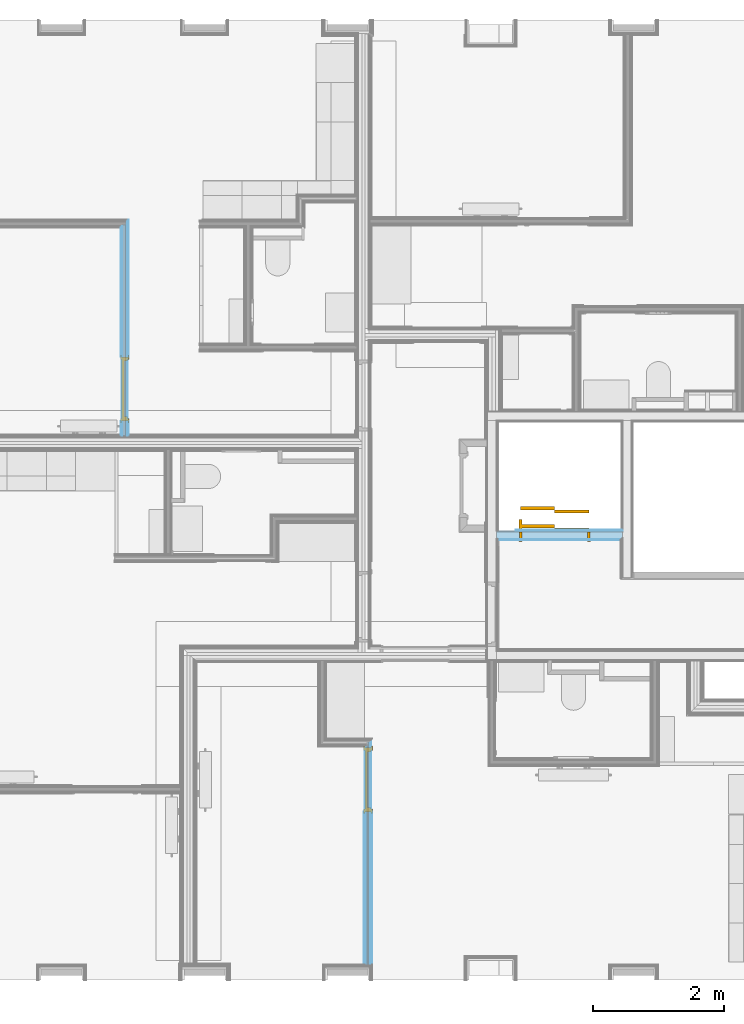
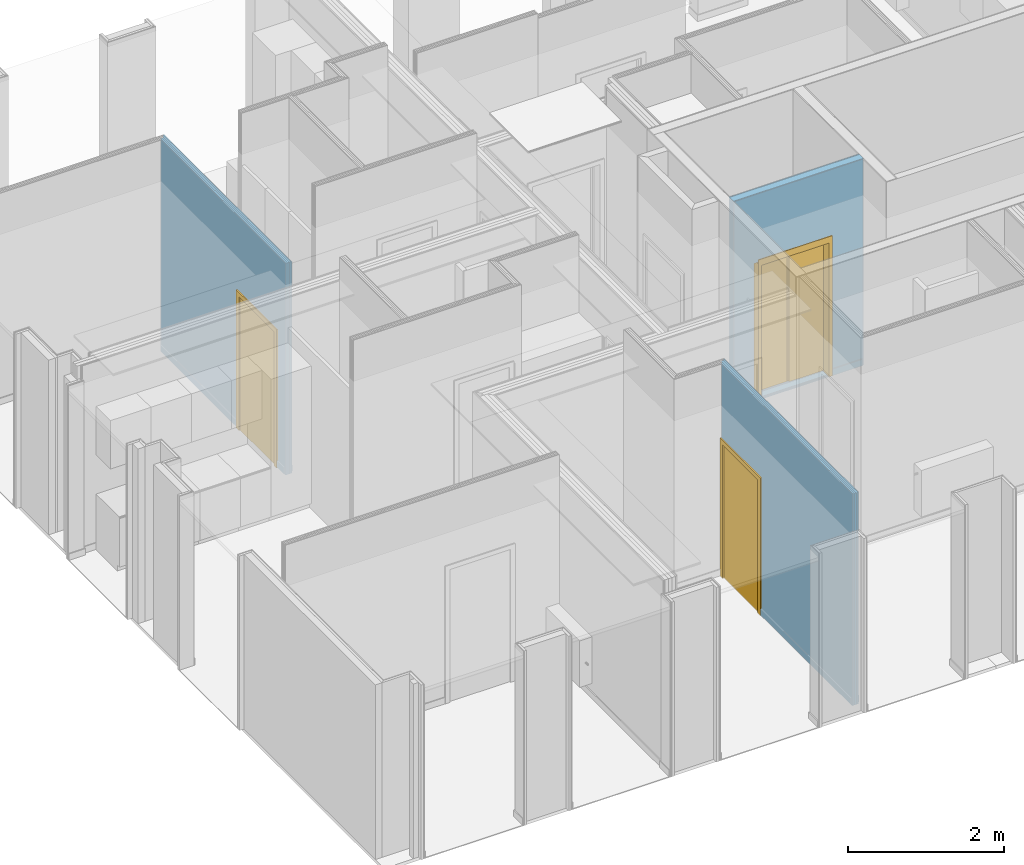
# One storey, part 48 of 64: 3 doors, 4 openings, 3 elements without a shape of their own, plus 19 elements that do not belong to this part.
"""IFC2X3 building model written with IfcOpenShell, lengths in metres."""

from ifc_helpers import new_model, entity, si_unit, converted_unit, derived_unit, money_unit, direction, frame, frame_2d, origin_with_axes, place, context, subcontext, project, spatial, polyline, rectangle, outline, extrude, faceted_brep, material, type_object, element, fill, aggregate, save


model = new_model("IFC2X3")

# Units and contexts
model_context = context("Model", 3, precision=1e-05, world=origin_with_axes(), true_north=direction((0.0, 1.0)))
body_context = subcontext(model_context, "Body", "Model", "MODEL_VIEW", scale=1.0)
ifc_project = project(units=[si_unit("LENGTHUNIT", "METRE"), si_unit("AREAUNIT", "SQUARE_METRE"), si_unit("VOLUMEUNIT", "CUBIC_METRE"), si_unit("ABSORBEDDOSEUNIT", "GRAY"), si_unit("AMOUNTOFSUBSTANCEUNIT", "MOLE"), si_unit("DOSEEQUIVALENTUNIT", "SIEVERT"), si_unit("ELECTRICCAPACITANCEUNIT", "FARAD"), si_unit("ELECTRICCHARGEUNIT", "COULOMB"), si_unit("ELECTRICCONDUCTANCEUNIT", "SIEMENS"), si_unit("ELECTRICCURRENTUNIT", "AMPERE"), si_unit("ELECTRICRESISTANCEUNIT", "OHM"), si_unit("ELECTRICVOLTAGEUNIT", "VOLT"), si_unit("ENERGYUNIT", "JOULE"), si_unit("FORCEUNIT", "NEWTON"), si_unit("FREQUENCYUNIT", "HERTZ"), si_unit("ILLUMINANCEUNIT", "LUX"), si_unit("INDUCTANCEUNIT", "HENRY"), si_unit("LUMINOUSFLUXUNIT", "LUMEN"), si_unit("LUMINOUSINTENSITYUNIT", "CANDELA"), si_unit("MAGNETICFLUXDENSITYUNIT", "TESLA"), si_unit("MAGNETICFLUXUNIT", "WEBER"), si_unit("MASSUNIT", "GRAM"), converted_unit("PLANEANGLEUNIT", "degree", entity("IfcReal", 0.0174532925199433), si_unit("PLANEANGLEUNIT", "RADIAN"), dimensions=[0, 0, 0, 0, 0, 0, 0]), si_unit("POWERUNIT", "WATT"), si_unit("PRESSUREUNIT", "PASCAL"), si_unit("RADIOACTIVITYUNIT", "BECQUEREL"), si_unit("SOLIDANGLEUNIT", "STERADIAN"), si_unit("THERMODYNAMICTEMPERATUREUNIT", "KELVIN"), si_unit("TIMEUNIT", "SECOND"), derived_unit("ACCELERATIONUNIT", [(si_unit("LENGTHUNIT", "METRE"), 1), (si_unit("TIMEUNIT", "SECOND"), -2)]), derived_unit("ANGULARVELOCITYUNIT", [(converted_unit("PLANEANGLEUNIT", "degree", entity("IfcReal", 0.0174532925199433), si_unit("PLANEANGLEUNIT", "RADIAN"), dimensions=[0, 0, 0, 0, 0, 0, 0]), 1), (si_unit("TIMEUNIT", "SECOND"), -1)]), derived_unit("CURVATUREUNIT", [(converted_unit("PLANEANGLEUNIT", "degree", entity("IfcReal", 0.0174532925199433), si_unit("PLANEANGLEUNIT", "RADIAN"), dimensions=[0, 0, 0, 0, 0, 0, 0]), 1), (si_unit("LENGTHUNIT", "METRE"), -1)]), derived_unit("DYNAMICVISCOSITYUNIT", [(si_unit("PRESSUREUNIT", "PASCAL"), 1), (si_unit("TIMEUNIT", "SECOND"), 1)]), derived_unit("HEATFLUXDENSITYUNIT", [(si_unit("POWERUNIT", "WATT"), 1), (si_unit("LENGTHUNIT", "METRE"), -2)]), derived_unit("HEATINGVALUEUNIT", [(si_unit("ENERGYUNIT", "JOULE"), 1), (si_unit("MASSUNIT", "GRAM"), -1)]), derived_unit("INTEGERCOUNTRATEUNIT", [(si_unit("TIMEUNIT", "SECOND"), -1)]), derived_unit("IONCONCENTRATIONUNIT", [(si_unit("MASSUNIT", "GRAM"), 1), (si_unit("VOLUMEUNIT", "CUBIC_METRE"), -1)]), derived_unit("ISOTHERMALMOISTURECAPACITYUNIT", [(si_unit("VOLUMEUNIT", "CUBIC_METRE"), 1), (si_unit("MASSUNIT", "GRAM"), -1)]), derived_unit("KINEMATICVISCOSITYUNIT", [(si_unit("AREAUNIT", "SQUARE_METRE"), 1), (si_unit("TIMEUNIT", "SECOND"), -1)]), derived_unit("LINEARFORCEUNIT", [(si_unit("FORCEUNIT", "NEWTON"), 1), (si_unit("LENGTHUNIT", "METRE"), -1)]), derived_unit("LINEARMOMENTUNIT", [(si_unit("FORCEUNIT", "NEWTON"), 1), (si_unit("LENGTHUNIT", "METRE"), -1)]), derived_unit("LINEARSTIFFNESSUNIT", [(si_unit("FORCEUNIT", "NEWTON"), 1), (si_unit("LENGTHUNIT", "METRE"), -1)]), derived_unit("LINEARVELOCITYUNIT", [(si_unit("LENGTHUNIT", "METRE"), 1), (si_unit("TIMEUNIT", "SECOND"), -1)]), derived_unit("LUMINOUSINTENSITYDISTRIBUTIONUNIT", [(si_unit("LUMINOUSINTENSITYUNIT", "CANDELA"), 1), (si_unit("LUMINOUSFLUXUNIT", "LUMEN"), -1)]), derived_unit("MASSDENSITYUNIT", [(si_unit("MASSUNIT", "GRAM"), 1), (si_unit("VOLUMEUNIT", "CUBIC_METRE"), -1)]), derived_unit("MASSFLOWRATEUNIT", [(si_unit("MASSUNIT", "GRAM"), 1), (si_unit("TIMEUNIT", "SECOND"), -1)]), derived_unit("MASSPERLENGTHUNIT", [(si_unit("MASSUNIT", "GRAM"), 1), (si_unit("LENGTHUNIT", "METRE"), -1)]), derived_unit("MODULUSOFELASTICITYUNIT", [(si_unit("FORCEUNIT", "NEWTON"), 1), (si_unit("AREAUNIT", "SQUARE_METRE"), -1)]), derived_unit("MODULUSOFLINEARSUBGRADEREACTIONUNIT", [(si_unit("FORCEUNIT", "NEWTON"), 1), (si_unit("LENGTHUNIT", "METRE"), -2)]), derived_unit("MODULUSOFROTATIONALSUBGRADEREACTIONUNIT", [(si_unit("FORCEUNIT", "NEWTON"), 1), (si_unit("LENGTHUNIT", "METRE"), 1)]), derived_unit("MODULUSOFSUBGRADEREACTIONUNIT", [(si_unit("FORCEUNIT", "NEWTON"), 1), (si_unit("VOLUMEUNIT", "CUBIC_METRE"), -1)]), derived_unit("MOISTUREDIFFUSIVITYUNIT", [(si_unit("VOLUMEUNIT", "CUBIC_METRE"), 1), (si_unit("TIMEUNIT", "SECOND"), -1)]), derived_unit("MOLECULARWEIGHTUNIT", [(si_unit("MASSUNIT", "GRAM"), 1), (si_unit("AMOUNTOFSUBSTANCEUNIT", "MOLE"), -1)]), derived_unit("PLANARFORCEUNIT", [(si_unit("FORCEUNIT", "NEWTON"), 1), (si_unit("LENGTHUNIT", "METRE"), -2)]), derived_unit("ROTATIONALFREQUENCYUNIT", [(si_unit("TIMEUNIT", "SECOND"), -1)]), derived_unit("ROTATIONALMASSUNIT", [(si_unit("MASSUNIT", "GRAM"), 1), (si_unit("LENGTHUNIT", "METRE"), 2)]), derived_unit("ROTATIONALSTIFFNESSUNIT", [(si_unit("FORCEUNIT", "NEWTON"), 1), (si_unit("LENGTHUNIT", "METRE"), 1), (converted_unit("PLANEANGLEUNIT", "degree", entity("IfcReal", 0.0174532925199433), si_unit("PLANEANGLEUNIT", "RADIAN"), dimensions=[0, 0, 0, 0, 0, 0, 0]), -1)]), derived_unit("SECTIONAREAINTEGRALUNIT", [(si_unit("LENGTHUNIT", "METRE"), 5)]), derived_unit("SECTIONMODULUSUNIT", [(si_unit("LENGTHUNIT", "METRE"), 3)]), derived_unit("SHEARMODULUSUNIT", [(si_unit("FORCEUNIT", "NEWTON"), 1), (si_unit("AREAUNIT", "SQUARE_METRE"), -1)]), derived_unit("SOUNDPOWERUNIT", [(si_unit("ENERGYUNIT", "JOULE"), 1), (si_unit("TIMEUNIT", "SECOND"), -1)]), derived_unit("SPECIFICHEATCAPACITYUNIT", [(si_unit("FORCEUNIT", "NEWTON"), 1), (si_unit("MASSUNIT", "GRAM"), -1), (si_unit("THERMODYNAMICTEMPERATUREUNIT", "KELVIN"), -1)]), derived_unit("TEMPERATUREGRADIENTUNIT", [(si_unit("THERMODYNAMICTEMPERATUREUNIT", "KELVIN"), 1), (si_unit("LENGTHUNIT", "METRE"), -1)]), derived_unit("THERMALADMITTANCEUNIT", [(si_unit("POWERUNIT", "WATT"), 1), (si_unit("AREAUNIT", "SQUARE_METRE"), -1), (si_unit("THERMODYNAMICTEMPERATUREUNIT", "KELVIN"), -1)]), derived_unit("THERMALCONDUCTANCEUNIT", [(si_unit("POWERUNIT", "WATT"), 1), (si_unit("LENGTHUNIT", "METRE"), -1), (si_unit("THERMODYNAMICTEMPERATUREUNIT", "KELVIN"), -1)]), derived_unit("THERMALEXPANSIONCOEFFICIENTUNIT", [(si_unit("THERMODYNAMICTEMPERATUREUNIT", "KELVIN"), -1)]), derived_unit("THERMALRESISTANCEUNIT", [(si_unit("AREAUNIT", "SQUARE_METRE"), 1), (si_unit("POWERUNIT", "WATT"), -1)]), derived_unit("THERMALTRANSMITTANCEUNIT", [(si_unit("POWERUNIT", "WATT"), 1), (si_unit("AREAUNIT", "SQUARE_METRE"), -1), (si_unit("THERMODYNAMICTEMPERATUREUNIT", "KELVIN"), -1)]), derived_unit("TORQUEUNIT", [(si_unit("FORCEUNIT", "NEWTON"), 1), (si_unit("LENGTHUNIT", "METRE"), 1)]), derived_unit("VAPORPERMEABILITYUNIT", [(si_unit("MASSUNIT", "GRAM"), 1), (si_unit("TIMEUNIT", "SECOND"), -1)]), derived_unit("VOLUMETRICFLOWRATEUNIT", [(si_unit("VOLUMEUNIT", "CUBIC_METRE"), 1), (si_unit("TIMEUNIT", "SECOND"), -1)]), derived_unit("WARPINGCONSTANTUNIT", [(si_unit("LENGTHUNIT", "METRE"), 6)]), derived_unit("WARPINGMOMENTUNIT", [(si_unit("FORCEUNIT", "NEWTON"), 1), (si_unit("LENGTHUNIT", "METRE"), 2)]), money_unit("GBP")], contexts=[model_context])

# Site, building, storey, space
site_placement = place(None, origin_with_axes())
site = spatial("IfcSite", under=ifc_project, at=site_placement, Name="Site", CompositionType="ELEMENT")
building_placement = place(site_placement, origin_with_axes())
building = spatial("IfcBuilding", under=site, at=building_placement, Name="Building01", CompositionType="ELEMENT")
storey_placement = place(building_placement, frame((0.0, 0.0, 8.64), z_axis=(0.0, 0.0, 1.0), x_axis=(1.0, 0.0, 0.0)))
storey = spatial("IfcBuildingStorey", under=building, at=storey_placement, Name="2F", CompositionType="ELEMENT", Elevation=8.64)
space_1_placement = place(storey_placement, frame((7.064669, 14.582, 0.017975), z_axis=(0.0, 0.0, 1.0), x_axis=(-1.0, 0.0, 0.0)))
space_1 = spatial("IfcSpace", under=storey, at=space_1_placement, Name="14", CompositionType="ELEMENT", InteriorOrExteriorSpace="NOTDEFINED")

# Door
ifc_material_1 = material(Name="A_BSUK_Doors")
door_style_1 = type_object("IfcDoorStyle", Name="A-Doors-SingleFlush", ConstructionType="USERDEFINED", OperationType="SINGLE_SWING_LEFT", ParameterTakesPrecedence=False, Sizeable=False)
wall_3_placement = place(storey_placement, frame((3.534669, 8.43567, 0.0), z_axis=(0.0, 0.0, 1.0), x_axis=(0.0, 1.0, 0.0)))
opening_4_placement = place(wall_3_placement, frame((0.223034, -0.05, 0.0), z_axis=(0.0, 0.0, 1.0), x_axis=(1.0, 0.0, 0.0)))
door_1_placement = place(opening_4_placement, frame((0.042, 0.11, 0.0), z_axis=(0.0, 0.0, 1.0), x_axis=(1.0, 0.0, 0.0)))
door_1 = element("IfcDoor", 1, at=door_1_placement, inside=space_1, type_object=door_style_1, material=ifc_material_1, Name="2.21", ObjectType="A-Doors-SingleFlush", OverallHeight=2.142, OverallWidth=0.984, context=body_context, shape_type="Brep", body=[
    faceted_brep([(0.0, -0.114, 2.1), (0.9, -0.114, 2.1), (0.9, -0.114, 0.0), (0.969, -0.114, 0.0), (0.969, -0.114, 2.169), (-0.069, -0.114, 2.169), (-0.069, -0.114, 0.0), (0.0, -0.114, 0.0), (0.969, -0.095, 2.169), (0.969, -0.095, 0.0), (-0.069, -0.095, 0.0), (-0.069, -0.095, 2.169), (-0.042, -0.095, 0.0), (-0.042, 0.0, 0.0), (-0.069, 0.0, 0.0), (-0.069, 0.019, 0.0), (0.0, 0.019, 0.0), (0.0, 0.019, 2.1), (0.9, 0.019, 2.1), (-0.069, 0.019, 2.169), (0.969, 0.019, 2.169), (0.969, 0.019, 0.0), (0.9, 0.019, 0.0), (-0.069, 0.0, 2.169), (-0.042, 0.0, 2.142), (-0.042, -0.095, 2.142), (0.942, 0.0, 2.142), (0.942, -0.095, 2.142), (0.942, -0.095, 0.0), (0.942, 0.0, 0.0), (0.969, 0.0, 0.0), (0.969, 0.0, 2.169)], [[[0, 1, 2, 3, 4, 5, 6, 7]], [[8, 4, 3, 9]], [[10, 6, 5, 11]], [[11, 5, 4, 8]], [[7, 6, 10, 12, 13, 14, 15, 16]], [[7, 16, 17, 0]], [[0, 17, 18, 1]], [[17, 16, 15, 19, 20, 21, 22, 18]], [[1, 18, 22, 2]], [[14, 23, 19, 15]], [[24, 13, 12, 25]], [[26, 24, 25, 27]], [[11, 8, 9, 28, 27, 25, 12, 10]], [[27, 28, 29, 26]], [[26, 29, 30, 31, 23, 14, 13, 24]], [[22, 21, 30, 29, 28, 9, 3, 2]], [[30, 21, 20, 31]], [[31, 20, 19, 23]]]),
    faceted_brep([(0.9, -0.09, 0.0), (0.9, -0.04, 0.0), (0.9, -0.04, 2.1), (0.9, -0.09, 2.1), (0.025, -0.09, 2.075), (0.875, -0.09, 2.075), (0.875, -0.09, 0.0), (0.0, -0.09, 2.1), (0.0, -0.09, 0.0), (0.025, -0.09, 0.0), (0.0, -0.04, 0.0), (0.025, -0.04, 0.0), (0.0, -0.04, 2.1), (0.025, -0.04, 2.075), (0.875, -0.04, 0.0), (0.875, -0.04, 2.075)], [[[0, 1, 2, 3]], [[4, 5, 6, 0, 3, 7, 8, 9]], [[9, 8, 10, 11]], [[3, 2, 12, 7]], [[7, 12, 10, 8]], [[13, 11, 10, 12, 2, 1, 14, 15]], [[5, 15, 14, 6]], [[14, 1, 0, 6]], [[9, 11, 13, 4]], [[4, 13, 15, 5]]]),
    faceted_brep([(0.0, -0.04, 2.1), (0.0, 0.0, 2.1), (0.0, 0.0, 0.0), (0.0, -0.04, 0.0), (0.9, -0.04, 0.0), (0.9, 0.0, 0.0), (0.9, 0.0, 2.1), (0.9, -0.04, 2.1)], [[[0, 1, 2, 3]], [[4, 5, 6, 7]], [[3, 2, 5, 4]], [[3, 4, 7, 0]], [[7, 6, 1, 0]], [[1, 6, 5, 2]]]),
])

# Space
space_2_placement = place(storey_placement, frame((12.15, 4.98, 0.017975), z_axis=(0.0, 0.0, 1.0), x_axis=(-1.0, 0.0, 0.0)))
space_2 = spatial("IfcSpace", under=storey, at=space_2_placement, Name="12", CompositionType="ELEMENT", InteriorOrExteriorSpace="NOTDEFINED")

# Door
door_style_2 = type_object("IfcDoorStyle", Name="A-Doors-SingleFlush", ConstructionType="USERDEFINED", OperationType="SINGLE_SWING_RIGHT", ParameterTakesPrecedence=False, Sizeable=False)
wall_2_placement = place(storey_placement, frame((7.26, 3.745, 0.0), z_axis=(0.0, 0.0, 1.0), x_axis=(0.0, -1.0, 0.0)))
opening_2_placement = place(wall_2_placement, frame((0.129, -0.075, -0.015), z_axis=(0.0, 0.0, 1.0), x_axis=(1.0, 0.0, 0.0)))
door_2_placement = place(opening_2_placement, frame((0.9, 0.015, 0.015), z_axis=(0.0, 0.0, 1.0), x_axis=(-1.0, 0.0, 0.0)))
door_2 = element("IfcDoor", 2, at=door_2_placement, inside=space_2, type_object=door_style_2, material=ifc_material_1, Name="2.16", ObjectType="A-Doors-SingleFlush", OverallHeight=2.157, OverallWidth=1.56178056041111, context=body_context, shape_type="Brep", body=[
    faceted_brep([(0.9, -0.114, 0.0), (0.969, -0.114, 0.0), (0.969, -0.114, 2.169), (-0.069, -0.114, 2.169), (-0.069, -0.114, 0.0), (0.0, -0.114, 0.0), (0.0, -0.114, 2.1), (0.9, -0.114, 2.1), (-0.069, -0.095, 0.0), (-0.069, -0.095, 2.169), (0.969, -0.095, 2.169), (0.969, -0.095, 0.0), (0.9, 0.019, 0.0), (0.969, 0.019, 0.0), (0.969, 0.0, 0.0), (0.942, 0.0, 0.0), (0.942, -0.095, 0.0), (0.9, 0.019, 2.1), (0.0, 0.019, 2.1), (0.0, 0.019, 0.0), (-0.069, 0.019, 0.0), (-0.069, 0.019, 2.169), (0.969, 0.019, 2.169), (0.969, 0.0, 2.169), (0.942, -0.095, 2.142), (0.942, 0.0, 2.142), (-0.042, -0.095, 2.142), (-0.042, 0.0, 2.142), (-0.042, -0.095, 0.0), (-0.042, 0.0, 0.0), (-0.069, 0.0, 2.169), (-0.069, 0.0, 0.0)], [[[0, 1, 2, 3, 4, 5, 6, 7]], [[8, 4, 3, 9]], [[10, 2, 1, 11]], [[9, 3, 2, 10]], [[12, 13, 14, 15, 16, 11, 1, 0]], [[7, 17, 12, 0]], [[6, 18, 17, 7]], [[18, 19, 20, 21, 22, 13, 12, 17]], [[5, 19, 18, 6]], [[13, 22, 23, 14]], [[24, 16, 15, 25]], [[26, 24, 25, 27]], [[11, 16, 24, 26, 28, 8, 9, 10]], [[27, 29, 28, 26]], [[25, 15, 14, 23, 30, 31, 29, 27]], [[5, 4, 8, 28, 29, 31, 20, 19]], [[30, 21, 20, 31]], [[23, 22, 21, 30]]]),
    faceted_brep([(0.0, -0.09, 2.1), (0.0, -0.04, 2.1), (0.0, -0.04, 0.0), (0.0, -0.09, 0.0), (0.875, -0.09, 0.0), (0.9, -0.09, 0.0), (0.9, -0.09, 2.1), (0.025, -0.09, 0.0), (0.025, -0.09, 2.075), (0.875, -0.09, 2.075), (0.875, -0.04, 0.0), (0.9, -0.04, 0.0), (0.9, -0.04, 2.1), (0.025, -0.04, 2.075), (0.025, -0.04, 0.0), (0.875, -0.04, 2.075)], [[[0, 1, 2, 3]], [[4, 5, 6, 0, 3, 7, 8, 9]], [[10, 11, 5, 4]], [[6, 12, 1, 0]], [[5, 11, 12, 6]], [[13, 14, 2, 1, 12, 11, 10, 15]], [[7, 14, 13, 8]], [[7, 3, 2, 14]], [[9, 15, 10, 4]], [[8, 13, 15, 9]]]),
    faceted_brep([(0.9, -0.04, 0.0), (0.9, 0.0, 0.0), (0.9, 0.0, 2.1), (0.9, -0.04, 2.1), (0.0, -0.04, 2.1), (0.0, 0.0, 2.1), (0.0, 0.0, 0.0), (0.0, -0.04, 0.0)], [[[0, 1, 2, 3]], [[4, 5, 6, 7]], [[7, 6, 1, 0]], [[3, 4, 7, 0]], [[3, 2, 5, 4]], [[1, 6, 5, 2]]]),
])

# Space
space_3_placement = place(storey_placement, frame((9.548928, 7.163933, 0.017932), z_axis=(0.0, 0.0, 1.0), x_axis=(1.0, 0.0, 0.0)))
space_3 = spatial("IfcSpace", under=storey, at=space_3_placement, Name="firef. LIFT", CompositionType="ELEMENT", InteriorOrExteriorSpace="NOTDEFINED")

# Door
door_style_3 = type_object("IfcDoorStyle", Name="A-ElevatorDoor-2Speed", ConstructionType="USERDEFINED", OperationType="USERDEFINED", ParameterTakesPrecedence=False, Sizeable=False)
wall_1_placement = place(storey_placement, frame((11.145, 6.965, 0.0), z_axis=(0.0, 0.0, 1.0), x_axis=(-1.0, 0.0, 0.0)))
opening_1_placement = place(wall_1_placement, frame((0.5, -0.03, 0.03), z_axis=(0.0, 0.0, 1.0), x_axis=(1.0, 0.0, 0.0)))
door_3_placement = place(opening_1_placement, frame((1.04, 0.17, 0.0), z_axis=(0.0, 0.0, 1.0), x_axis=(-1.0, 0.0, 0.0)))
door_3 = element("IfcDoor", 3, at=door_3_placement, inside=space_3, type_object=door_style_3, material=ifc_material_1, Name="A-ElevatorDoor-2Speed", ObjectType="A-ElevatorDoor-2Speed", OverallHeight=2.14, OverallWidth=1.13330201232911, context=body_context, shape_type="Brep", body=[
    faceted_brep([(1.05, 0.0, 0.0), (1.05, 0.0, 2.1), (1.05, -0.012, 2.1), (1.05, -0.012, 0.0), (1.0, -0.012, 0.0), (1.0, -0.012, 2.1), (1.0, 0.137, 2.1), (1.0, 0.137, 0.0), (1.05, 0.137, 2.1), (1.05, 0.137, 0.0), (1.05, 0.125, 2.1), (1.05, 0.125, 0.0), (1.04, 0.125, 2.1), (1.04, 0.125, 0.0), (1.04, 0.0, 2.1), (1.04, 0.0, 0.0)], [[[0, 1, 2, 3]], [[4, 5, 6, 7]], [[7, 6, 8, 9]], [[9, 8, 10, 11]], [[11, 10, 12, 13]], [[13, 12, 14, 15]], [[15, 14, 1, 0]], [[3, 4, 7, 9, 11, 13, 15, 0]], [[3, 2, 5, 4]], [[1, 14, 12, 10, 8, 6, 5, 2]]]),
    faceted_brep([(1.05, 0.0, 2.2), (-0.05, 0.0, 2.2), (-0.05, -0.012, 2.2), (1.05, -0.012, 2.2), (1.05, -0.012, 2.1), (-0.05, -0.012, 2.1), (-0.05, 0.137, 2.1), (1.05, 0.137, 2.1), (-0.05, 0.137, 2.2), (1.05, 0.137, 2.2), (-0.05, 0.125, 2.2), (1.05, 0.125, 2.2), (-0.05, 0.125, 2.14), (1.05, 0.125, 2.14), (-0.05, 0.0, 2.14), (1.05, 0.0, 2.14)], [[[0, 1, 2, 3]], [[4, 5, 6, 7]], [[7, 6, 8, 9]], [[9, 8, 10, 11]], [[11, 10, 12, 13]], [[13, 12, 14, 15]], [[15, 14, 1, 0]], [[3, 4, 7, 9, 11, 13, 15, 0]], [[3, 2, 5, 4]], [[1, 14, 12, 10, 8, 6, 5, 2]]]),
    faceted_brep([(-0.05, 0.0, 2.1), (-0.05, 0.0, 0.0), (-0.05, -0.012, 0.0), (-0.05, -0.012, 2.1), (0.0, -0.012, 2.1), (0.0, -0.012, 0.0), (0.0, 0.137, 0.0), (0.0, 0.137, 2.1), (-0.05, 0.137, 0.0), (-0.05, 0.137, 2.1), (-0.05, 0.125, 0.0), (-0.05, 0.125, 2.1), (-0.04, 0.125, 0.0), (-0.04, 0.125, 2.1), (-0.04, 0.0, 0.0), (-0.04, 0.0, 2.1)], [[[0, 1, 2, 3]], [[4, 5, 6, 7]], [[7, 6, 8, 9]], [[9, 8, 10, 11]], [[11, 10, 12, 13]], [[13, 12, 14, 15]], [[15, 14, 1, 0]], [[3, 4, 7, 9, 11, 13, 15, 0]], [[3, 2, 5, 4]], [[1, 14, 12, 10, 8, 6, 5, 2]]]),
    faceted_brep([(-0.025, 0.25, 2.125), (-0.025, 0.2, 2.125), (0.5, 0.2, 2.125), (0.5, 0.25, 2.125), (0.5, 0.25, -0.025), (0.5, 0.2, -0.025), (-0.025, 0.2, -0.025), (-0.025, 0.25, -0.025)], [[[0, 1, 2, 3]], [[4, 5, 6, 7]], [[7, 6, 1, 0]], [[3, 4, 7, 0]], [[3, 2, 5, 4]], [[1, 6, 5, 2]]]),
    faceted_brep([(-0.025, 0.5254, 2.125), (-0.025, 0.4754, 2.125), (0.5, 0.4754, 2.125), (0.5, 0.5254, 2.125), (0.5, 0.5254, -0.0594), (0.5, 0.4754, -0.0594), (-0.025, 0.4754, -0.0594), (-0.025, 0.5254, -0.0594)], [[[0, 1, 2, 3]], [[4, 5, 6, 7]], [[7, 6, 1, 0]], [[3, 4, 7, 0]], [[3, 2, 5, 4]], [[1, 6, 5, 2]]]),
    faceted_brep([(1.025, 0.4254, 2.125), (1.025, 0.4754, 2.125), (0.5, 0.4754, 2.125), (0.5, 0.4254, 2.125), (0.5, 0.4254, -0.025), (0.5, 0.4754, -0.025), (1.025, 0.4754, -0.025), (1.025, 0.4254, -0.025)], [[[0, 1, 2, 3]], [[4, 5, 6, 7]], [[7, 6, 1, 0]], [[3, 4, 7, 0]], [[3, 2, 5, 4]], [[1, 6, 5, 2]]]),
    faceted_brep([(1.025, 0.15, 2.125), (1.025, 0.2, 2.125), (0.5, 0.2, 2.125), (0.5, 0.15, 2.125), (0.5, 0.15, -0.025), (0.5, 0.2, -0.025), (1.025, 0.2, -0.025), (1.025, 0.15, -0.025)], [[[0, 1, 2, 3]], [[4, 5, 6, 7]], [[7, 6, 1, 0]], [[3, 4, 7, 0]], [[3, 2, 5, 4]], [[1, 6, 5, 2]]]),
    faceted_brep([(0.0, 0.137, 2.125), (0.0, 0.137, 0.0), (0.0, 0.3246, 0.0), (0.0, 0.3246, 2.125), (-0.05, 0.3246, 2.125), (-0.05, 0.3246, 0.0), (-0.05, 0.137, 0.0), (-0.05, 0.137, 2.125)], [[[0, 1, 2, 3]], [[4, 5, 6, 7]], [[7, 6, 1, 0]], [[3, 4, 7, 0]], [[3, 2, 5, 4]], [[1, 6, 5, 2]]]),
])

# Wall, opening
wall_type_1 = type_object("IfcWallType", Name="SHE_A-Walls_Type04a_BlockworkWall_130mm", PredefinedType="NOTDEFINED")
wall_1 = element("IfcWall", 4, at=wall_1_placement, inside=storey, type_object=wall_type_1, Name="4A", ObjectType="SHE_A-Walls_Type04a_BlockworkWall_130mm")
opening_1 = element("IfcOpeningElement", 5, at=opening_1_placement, cuts=wall_1, Name="Opening", ObjectType="Opening", context=body_context, shape_type="SweptSolid", body=[
    extrude(rectangle(XDim=1.133302, YDim=2.14, at=frame_2d((-0.566651, 1.07), x_axis=(-1.0, 0.0))), frame((0.0, 0.0, 0.0), z_axis=(0.0, 1.0, 0.0), x_axis=(-1.0, 0.0, 0.0)), (0.0, 0.0, 1.0), 0.16),
])

fill(opening_1, door_3)

# Building element part
ifc_material_2 = material(Name="A_BSUK_Walls_Timber")
placement_1 = place(wall_1_placement, origin_with_axes())
building_element_part_1 = element("IfcBuildingElementPart", 6, at=placement_1, material=ifc_material_2, Name="1", context=body_context, shape_type="SweptSolid", body=[
    extrude(outline(polyline([(0.0, -0.015), (0.015, -0.03), (1.633302, -0.03), (1.633302, -0.015), (0.0, -0.015)])), frame((0.0, 0.0, 0.015), z_axis=(0.0, 0.0, 1.0), x_axis=(1.0, 0.0, 0.0)), (0.0, 0.0, 1.0), 0.1),
])

ifc_material_3 = material(Name="A_BSUK_WallInternal_Finishes_Plasterboard")
building_element_part_2 = element("IfcBuildingElementPart", 7, at=placement_1, material=ifc_material_3, Name="2", context=body_context, shape_type="SweptSolid", body=[
    extrude(outline(polyline([(1.93, 0.0), (0.0, 0.0), (0.015, -0.015), (1.93, -0.015), (1.93, 0.0)])), origin_with_axes(), (0.0, 0.0, 1.0), 3.24),
])

ifc_material_4 = material(Name="A_BSUK_WallsInternal_Block")
building_element_part_3 = element("IfcBuildingElementPart", 8, at=placement_1, material=ifc_material_4, Name="3", context=body_context, shape_type="SweptSolid", body=[
    extrude(rectangle(XDim=1.93, YDim=0.1, at=frame_2d((0.965, 0.05), x_axis=(-1.0, 0.0))), origin_with_axes(), (0.0, 0.0, 1.0), 3.24),
])

ifc_material_5 = material(Name="A_BSUK_WallInternal_Finishes_Plaster")
building_element_part_4 = element("IfcBuildingElementPart", 9, at=placement_1, material=ifc_material_5, Name="4", context=body_context, shape_type="SweptSolid", body=[
    extrude(outline(polyline([(1.93, 0.115), (0.015, 0.115), (0.0, 0.1), (1.93, 0.1), (1.93, 0.115)])), origin_with_axes(), (0.0, 0.0, 1.0), 3.24),
])

building_element_part_5 = element("IfcBuildingElementPart", 10, at=placement_1, material=ifc_material_2, Name="5", context=body_context, shape_type="SweptSolid", body=[
    extrude(outline(polyline([(1.9, 0.13), (0.03, 0.13), (0.015, 0.115), (1.9, 0.115), (1.9, 0.13)])), frame((0.0, 0.0, 0.015), z_axis=(0.0, 0.0, 1.0), x_axis=(1.0, 0.0, 0.0)), (0.0, 0.0, 1.0), 0.1),
])

aggregate(wall_1, [building_element_part_1, building_element_part_2, building_element_part_3, building_element_part_4, building_element_part_5])

# Wall, opening
wall_type_2 = type_object("IfcWallType", Name="SHE_A-Walls_Type05a_Partition_95mm_tall", PredefinedType="NOTDEFINED")
wall_2 = element("IfcWall", 11, at=wall_2_placement, inside=storey, type_object=wall_type_2, Name="5A", ObjectType="SHE_A-Walls_Type05a_Partition_95mm_tall")
opening_2 = element("IfcOpeningElement", 12, at=opening_2_placement, cuts=wall_2, Name="Opening", ObjectType="Opening", context=body_context, shape_type="SweptSolid", body=[
    extrude(outline(polyline([(0.0, 2.142), (-0.9, 2.142), (-0.9, 0.015), (-0.464219, 0.015), (-0.464219, 0.0), (0.0, 0.0), (0.0, 2.142)])), frame((0.0, 0.0, 0.0), z_axis=(0.0, 1.0, 0.0), x_axis=(-1.0, 0.0, 0.0)), (0.0, 0.0, 1.0), 0.125),
    extrude(outline(polyline([(0.619781, 2.157), (-0.942, 2.157), (-0.942, 0.015), (-0.464219, 0.015), (-0.464219, 0.0), (0.619781, 0.0), (0.619781, 2.157)])), frame((0.0, 0.015, 0.0), z_axis=(0.0, 1.0, 0.0), x_axis=(-1.0, 0.0, 0.0)), (0.0, 0.0, 1.0), 0.012),
    extrude(outline(polyline([(0.619781, 2.157), (-0.942, 2.157), (-0.942, 0.015), (-0.464219, 0.015), (-0.464219, 0.0), (0.619781, 0.0), (0.619781, 2.157)])), frame((0.0, 0.027, 0.0), z_axis=(0.0, 1.0, 0.0), x_axis=(-1.0, 0.0, 0.0)), (0.0, 0.0, 1.0), 0.023),
    extrude(outline(polyline([(0.619781, 2.157), (-0.942, 2.157), (-0.942, 0.015), (-0.464219, 0.015), (-0.464219, 0.0), (0.619781, 0.0), (0.619781, 2.157)])), frame((0.0, 0.05, 0.0), z_axis=(0.0, 1.0, 0.0), x_axis=(-1.0, 0.0, 0.0)), (0.0, 0.0, 1.0), 0.025),
    extrude(outline(polyline([(0.619781, 2.157), (-0.942, 2.157), (-0.942, 0.015), (-0.464219, 0.015), (-0.464219, 0.0), (0.619781, 0.0), (0.619781, 2.157)])), frame((0.0, 0.075, 0.0), z_axis=(0.0, 1.0, 0.0), x_axis=(-1.0, 0.0, 0.0)), (0.0, 0.0, 1.0), 0.023),
    extrude(rectangle(XDim=0.9, YDim=2.142, at=frame_2d((-0.45, 1.071), x_axis=(-1.0, 0.0))), frame((0.0, 0.098, 0.0), z_axis=(0.0, 1.0, 0.0), x_axis=(-1.0, 0.0, 0.0)), (0.0, 0.0, 1.0), 0.012),
    extrude(outline(polyline([(0.042, 2.142), (0.042, 2.157), (-0.942, 2.157), (-0.942, 0.015), (-0.464219, 0.015), (-0.464219, 0.0), (0.619781, 0.0), (0.619781, 2.142), (0.042, 2.142)])), frame((0.0, 0.0, 0.0), z_axis=(0.0, 1.0, 0.0), x_axis=(-1.0, 0.0, 0.0)), (0.0, 0.0, 1.0), 0.098),
    extrude(outline(polyline([(0.042, 2.142), (0.042, 2.157), (-0.942, 2.157), (-0.942, 0.015), (-0.464219, 0.015), (-0.464219, 0.0), (0.619781, 0.0), (0.619781, 2.142), (0.042, 2.142)])), frame((0.0, 0.11, 0.0), z_axis=(0.0, 1.0, 0.0), x_axis=(-1.0, 0.0, 0.0)), (0.0, 0.0, 1.0), 0.015),
])

fill(opening_2, door_2)

# Opening
opening_3_placement = place(wall_2_placement, frame((0.087, 0.023, 0.0), z_axis=(0.0, 0.0, 1.0), x_axis=(1.0, 0.0, 0.0)))
element("IfcOpeningElement", 13, at=opening_3_placement, cuts=wall_2, Name="Opening", ObjectType="Recess", context=body_context, shape_type="SweptSolid", body=[
    extrude(rectangle(XDim=2.142, YDim=0.984, at=frame_2d((-0.492, 1.071), x_axis=(0.0, 1.0))), frame((0.0, 0.0, 0.0), z_axis=(0.0, 1.0, 0.0), x_axis=(-1.0, 0.0, 0.0)), (0.0, 0.0, 1.0), 0.012),
])

# Building element part
placement_2 = place(wall_2_placement, origin_with_axes())
building_element_part_6 = element("IfcBuildingElementPart", 14, at=placement_2, material=ifc_material_2, Name="1", context=body_context, shape_type="SweptSolid", body=[
    extrude(outline(polyline([(3.412, -0.06), (0.06, -0.06), (0.075, -0.075), (3.412, -0.075), (3.412, -0.06)])), frame((0.0, 0.0, 0.015), z_axis=(0.0, 0.0, 1.0), x_axis=(1.0, 0.0, 0.0)), (0.0, 0.0, 1.0), 0.1),
])

building_element_part_7 = element("IfcBuildingElementPart", 15, at=placement_2, material=ifc_material_3, Name="2", context=body_context, shape_type="SweptSolid", body=[
    extrude(outline(polyline([(3.427, -0.048), (0.048, -0.048), (0.06, -0.06), (3.427, -0.06), (3.427, -0.048)])), origin_with_axes(), (0.0, 0.0, 1.0), 3.32),
])

ifc_material_6 = material(Name="Air Cavity")
building_element_part_8 = element("IfcBuildingElementPart", 16, at=placement_2, material=ifc_material_6, Name="3", context=body_context, shape_type="SweptSolid", body=[
    extrude(outline(polyline([(3.427, -0.025), (0.025, -0.025), (0.048, -0.048), (3.427, -0.048), (3.427, -0.025)])), origin_with_axes(), (0.0, 0.0, 1.0), 3.32),
])

ifc_material_7 = material(Name="A_BSUK_Insulation")
building_element_part_9 = element("IfcBuildingElementPart", 17, at=placement_2, material=ifc_material_7, Name="4", context=body_context, shape_type="SweptSolid", body=[
    extrude(rectangle(XDim=3.427, YDim=0.025, at=frame_2d((1.7135, -0.0125), x_axis=(-1.0, 0.0))), origin_with_axes(), (0.0, 0.0, 1.0), 3.32),
])

building_element_part_10 = element("IfcBuildingElementPart", 18, at=placement_2, material=ifc_material_6, Name="5", context=body_context, shape_type="SweptSolid", body=[
    extrude(rectangle(XDim=3.427, YDim=0.023, at=frame_2d((1.7135, 0.0115), x_axis=(-1.0, 0.0))), origin_with_axes(), (0.0, 0.0, 1.0), 3.32),
])

building_element_part_11 = element("IfcBuildingElementPart", 19, at=placement_2, material=ifc_material_3, Name="6", context=body_context, shape_type="SweptSolid", body=[
    extrude(outline(polyline([(3.427, 0.035), (-0.035, 0.035), (-0.023, 0.023), (3.427, 0.023), (3.427, 0.035)])), origin_with_axes(), (0.0, 0.0, 1.0), 3.32),
])

building_element_part_12 = element("IfcBuildingElementPart", 20, at=placement_2, material=ifc_material_2, Name="7", context=body_context, shape_type="SweptSolid", body=[
    extrude(outline(polyline([(3.412, 0.05), (-0.05, 0.05), (-0.035, 0.035), (3.412, 0.035), (3.412, 0.05)])), frame((0.0, 0.0, 0.015), z_axis=(0.0, 0.0, 1.0), x_axis=(1.0, 0.0, 0.0)), (0.0, 0.0, 1.0), 0.1),
])

aggregate(wall_2, [building_element_part_6, building_element_part_7, building_element_part_8, building_element_part_9, building_element_part_10, building_element_part_11, building_element_part_12])

# Wall, opening
wall_3 = element("IfcWall", 21, at=wall_3_placement, inside=storey, type_object=wall_type_2, Name="5A", ObjectType="SHE_A-Walls_Type05a_Partition_95mm_tall")
opening_4 = element("IfcOpeningElement", 22, at=opening_4_placement, cuts=wall_3, Name="Opening", ObjectType="Opening", context=body_context, shape_type="SweptSolid", body=[
    extrude(rectangle(XDim=0.984, YDim=2.142, at=frame_2d((-0.492, 1.071), x_axis=(1.0, 0.0))), frame((0.0, 0.0, 0.0), z_axis=(0.0, 1.0, 0.0), x_axis=(-1.0, 0.0, 0.0)), (0.0, 0.0, 1.0), 0.125),
])

fill(opening_4, door_1)

# Building element part
placement_3 = place(wall_3_placement, origin_with_axes())
building_element_part_13 = element("IfcBuildingElementPart", 23, at=placement_3, material=ifc_material_2, Name="1", context=body_context, shape_type="SweptSolid", body=[
    extrude(outline(polyline([(3.29, -0.035), (0.015, -0.035), (0.015, -0.05), (3.305, -0.05), (3.29, -0.035)])), frame((0.0, 0.0, 0.015), z_axis=(0.0, 0.0, 1.0), x_axis=(1.0, 0.0, 0.0)), (0.0, 0.0, 1.0), 0.1),
])

building_element_part_14 = element("IfcBuildingElementPart", 24, at=placement_3, material=ifc_material_3, Name="2", context=body_context, shape_type="SweptSolid", body=[
    extrude(outline(polyline([(3.278, -0.023), (0.0, -0.023), (0.0, -0.035), (3.29, -0.035), (3.278, -0.023)])), origin_with_axes(), (0.0, 0.0, 1.0), 3.32),
])

building_element_part_15 = element("IfcBuildingElementPart", 25, at=placement_3, material=ifc_material_6, Name="3", context=body_context, shape_type="SweptSolid", body=[
    extrude(outline(polyline([(3.255, 0.0), (0.0, 0.0), (0.0, -0.023), (3.278, -0.023), (3.255, 0.0)])), origin_with_axes(), (0.0, 0.0, 1.0), 3.32),
])

building_element_part_16 = element("IfcBuildingElementPart", 26, at=placement_3, material=ifc_material_7, Name="4", context=body_context, shape_type="SweptSolid", body=[
    extrude(rectangle(XDim=3.23, YDim=0.025, at=frame_2d((1.615, 0.0125), x_axis=(-1.0, 0.0))), origin_with_axes(), (0.0, 0.0, 1.0), 3.32),
])

building_element_part_17 = element("IfcBuildingElementPart", 27, at=placement_3, material=ifc_material_6, Name="5", context=body_context, shape_type="SweptSolid", body=[
    extrude(rectangle(XDim=3.23, YDim=0.023, at=frame_2d((1.615, 0.0365), x_axis=(-1.0, 0.0))), origin_with_axes(), (0.0, 0.0, 1.0), 3.32),
])

building_element_part_18 = element("IfcBuildingElementPart", 28, at=placement_3, material=ifc_material_3, Name="6", context=body_context, shape_type="SweptSolid", body=[
    extrude(outline(polyline([(3.195, 0.06), (0.0, 0.06), (0.0, 0.048), (3.207, 0.048), (3.195, 0.06)])), origin_with_axes(), (0.0, 0.0, 1.0), 3.32),
])

building_element_part_19 = element("IfcBuildingElementPart", 29, at=placement_3, material=ifc_material_2, Name="7", context=body_context, shape_type="SweptSolid", body=[
    extrude(outline(polyline([(3.18, 0.075), (0.015, 0.075), (0.015, 0.06), (3.195, 0.06), (3.18, 0.075)])), frame((0.0, 0.0, 0.015), z_axis=(0.0, 0.0, 1.0), x_axis=(1.0, 0.0, 0.0)), (0.0, 0.0, 1.0), 0.1),
])

aggregate(wall_3, [building_element_part_13, building_element_part_14, building_element_part_15, building_element_part_16, building_element_part_17, building_element_part_18, building_element_part_19])

save(model, "model.ifc")
